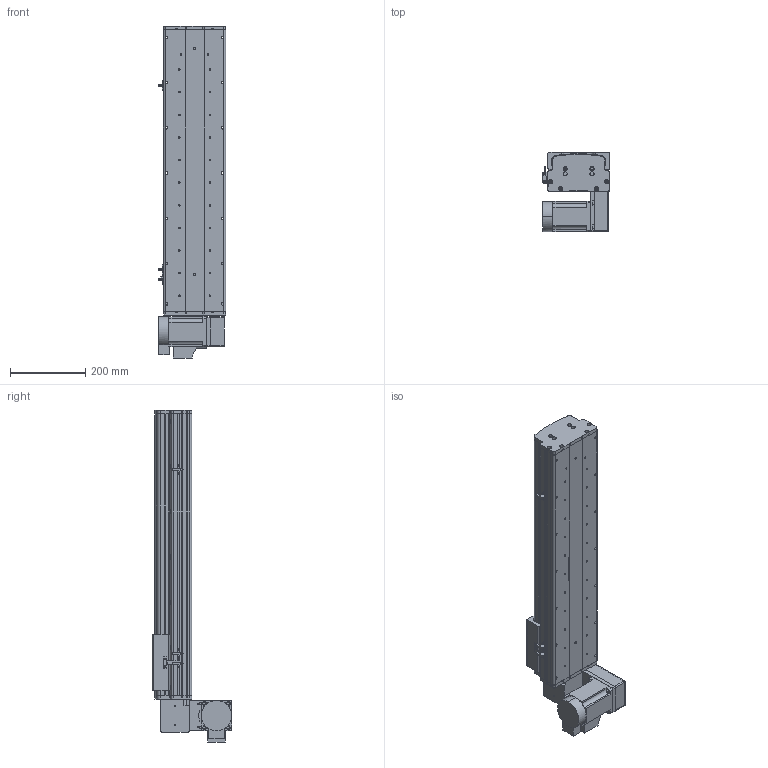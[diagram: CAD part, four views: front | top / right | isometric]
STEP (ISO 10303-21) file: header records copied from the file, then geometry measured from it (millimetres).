
FILE_DESCRIPTION (( 'STEP AP214' ), '1' );
FILE_NAME ('KSD165B-S500-MRD-CM.STEP', '2017-10-16T09:21:31', ( '微软用户' ), ( '微软中国' ), 'SwSTEP 2.0', 'SolidWorks 2014', '' );
FILE_SCHEMA (( 'AUTOMOTIVE_DESIGN' ));
Length unit declared in the file: millimetre
Products named in the file (18): 肣翐M4X35樓6; KSD165模组-同步带防尘盖1-500行程-最新版; U倰嫖萇假蚾璃; U倰嫖萇EEㄜSX672; 覜茼え68遵圉猾敕; KSD165模组-同步带-防撞垫2; KSD165模组同步带-防撞垫1; KSD165耀郪-ヶ傷啣1-肮祭湍; KSD165模组-后端板1-同步带; KSD165模组-同步带滑动座-最新版; KSD165模组同步带底板-500行程-最新; KSD165B-S500-MRD-CM; 拸秶雄ん750W侜督萇儂; 165宽马达安装板同步带右; HTPA26S5M250-A-H8 750W萇儂蚚; HTPA26S5M250-A-H8 400W萇儂蚚 ; 130宽模组马达安装板连板上下折丝杆同步带; 130宽模组保护罩上下左右折-同步带
Assembly tree (22 placements, depth 2):
  KSD165B-S500-MRD-CM
    KSD165模组同步带底板-500行程-最新
    KSD165模组-同步带滑动座-最新版
    KSD165模组-后端板1-同步带
    KSD165耀郪-ヶ傷啣1-肮祭湍
    KSD165模组同步带-防撞垫1
    KSD165模组-同步带-防撞垫2
    覜茼え68遵圉猾敕
    U倰嫖萇EEㄜSX672  x3
    U倰嫖萇假蚾璃  x3
    KSD165模组-同步带防尘盖1-500行程-最新版
    肣翐M4X35樓6  x2
    130宽模组保护罩上下左右折-同步带
    130宽模组马达安装板连板上下折丝杆同步带
    HTPA26S5M250-A-H8 400W萇儂蚚 
    HTPA26S5M250-A-H8 750W萇儂蚚
    165宽马达安装板同步带右
    拸秶雄ん750W侜督萇儂
Bounding box: 178.7 x 210 x 880.5 mm (x, y, z)
Volume: 5662087 mm3; surface area: 1311961.1 mm2
Topology: 23 solids, 23 shells, 1929 faces, 5420 edges, 3534 vertices
Faces by surface type: cylinder 1215, plane 598, cone 116
Entity records: 61558 total; most frequent: CARTESIAN_POINT 12602, DIRECTION 10158, ORIENTED_EDGE 9428, EDGE_CURVE 4714, AXIS2_PLACEMENT_3D 3971, VERTEX_POINT 3105, CIRCLE 2252, VECTOR 2216
